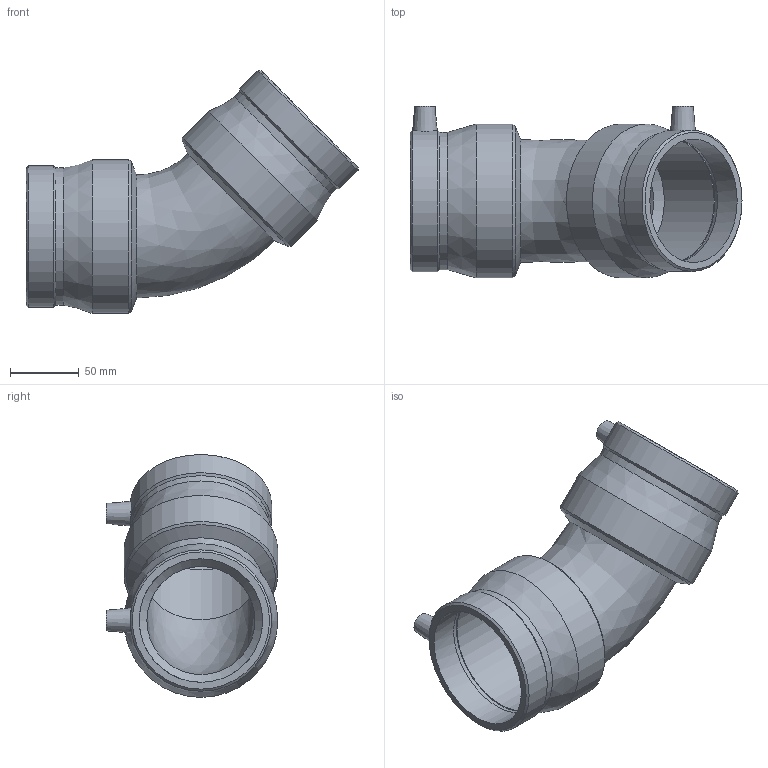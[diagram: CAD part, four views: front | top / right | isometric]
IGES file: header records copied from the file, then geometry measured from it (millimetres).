
Global section: file name: 490604090.ipt; native system: Autodesk Inventor 2015; preprocessor: unknown; author: KIM; date: 20171106.093653; units: millimetre
Bounding box: 241.91 x 125 x 176.9 mm (x, y, z)
Volume: 535982.2 mm3; surface area: 153219.8 mm2
Topology: 1 solids, 1 shells, 44 faces, 102 edges, 66 vertices
Faces by surface type: cone 14, revolution 12, plane 10, cylinder 8
Full cylindrical faces by diameter (mm): 4 x2, 99.949 x2, 103.04 x2, 112 x2
